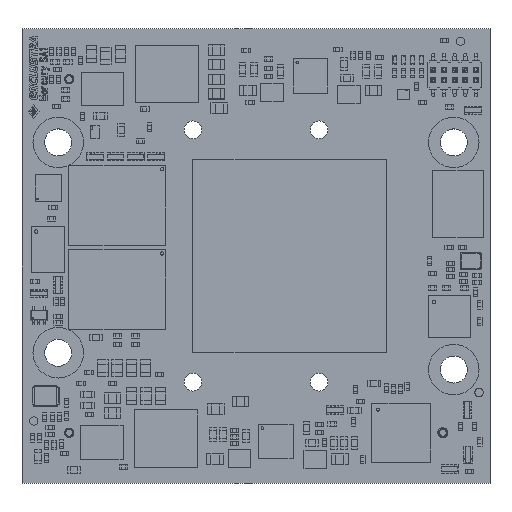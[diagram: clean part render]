
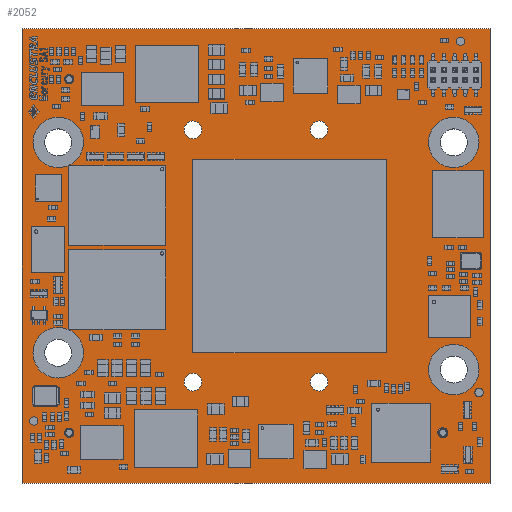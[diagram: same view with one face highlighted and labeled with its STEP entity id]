
A CAD part, top view. The second image highlights one B-rep face of the part: STEP entity #2052.
In plain terms, the highlighted planar face has unit normal (0, 0, 1).
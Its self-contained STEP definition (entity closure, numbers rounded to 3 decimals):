
#1491 = VERTEX_POINT('',#1492);
#1492 = CARTESIAN_POINT('',(0.,0.,0.));
#1498 = EDGE_CURVE('',#1491,#1499,#1501,.T.);
#1499 = VERTEX_POINT('',#1500);
#1500 = CARTESIAN_POINT('',(55.6,0.,0.));
#1501 = LINE('',#1502,#1503);
#1502 = CARTESIAN_POINT('',(0.,0.,0.));
#1503 = VECTOR('',#1504,1.);
#1504 = DIRECTION('',(1.,0.,0.));
#1529 = EDGE_CURVE('',#1499,#1530,#1532,.T.);
#1530 = VERTEX_POINT('',#1531);
#1531 = CARTESIAN_POINT('',(55.6,54.,0.));
#1532 = LINE('',#1533,#1534);
#1533 = CARTESIAN_POINT('',(55.6,0.,0.));
#1534 = VECTOR('',#1535,1.);
#1535 = DIRECTION('',(0.,1.,0.));
#1560 = EDGE_CURVE('',#1530,#1561,#1563,.T.);
#1561 = VERTEX_POINT('',#1562);
#1562 = CARTESIAN_POINT('',(0.,54.,0.));
#1563 = LINE('',#1564,#1565);
#1564 = CARTESIAN_POINT('',(55.6,54.,0.));
#1565 = VECTOR('',#1566,1.);
#1566 = DIRECTION('',(-1.,0.,0.));
#1591 = EDGE_CURVE('',#1561,#1491,#1592,.T.);
#1592 = LINE('',#1593,#1594);
#1593 = CARTESIAN_POINT('',(0.,54.,0.));
#1594 = VECTOR('',#1595,1.);
#1595 = DIRECTION('',(0.,-1.,0.));
#1615 = VERTEX_POINT('',#1616);
#1616 = CARTESIAN_POINT('',(5.9,15.5,0.));
#1622 = EDGE_CURVE('',#1615,#1615,#1623,.T.);
#1623 = CIRCLE('',#1624,1.6);
#1624 = AXIS2_PLACEMENT_3D('',#1625,#1626,#1627);
#1625 = CARTESIAN_POINT('',(4.3,15.5,0.));
#1626 = DIRECTION('',(0.,0.,1.));
#1627 = DIRECTION('',(1.,0.,0.));
#1648 = VERTEX_POINT('',#1649);
#1649 = CARTESIAN_POINT('',(6.15,6.,0.));
#1655 = EDGE_CURVE('',#1648,#1648,#1656,.T.);
#1656 = CIRCLE('',#1657,0.55);
#1657 = AXIS2_PLACEMENT_3D('',#1658,#1659,#1660);
#1658 = CARTESIAN_POINT('',(5.6,6.,0.));
#1659 = DIRECTION('',(0.,0.,1.));
#1660 = DIRECTION('',(1.,0.,0.));
#1681 = VERTEX_POINT('',#1682);
#1682 = CARTESIAN_POINT('',(21.35,12.,0.));
#1688 = EDGE_CURVE('',#1681,#1681,#1689,.T.);
#1689 = CIRCLE('',#1690,1.05);
#1690 = AXIS2_PLACEMENT_3D('',#1691,#1692,#1693);
#1691 = CARTESIAN_POINT('',(20.3,12.,0.));
#1692 = DIRECTION('',(0.,0.,1.));
#1693 = DIRECTION('',(1.,0.,0.));
#1714 = VERTEX_POINT('',#1715);
#1715 = CARTESIAN_POINT('',(5.9,40.5,0.));
#1721 = EDGE_CURVE('',#1714,#1714,#1722,.T.);
#1722 = CIRCLE('',#1723,1.6);
#1723 = AXIS2_PLACEMENT_3D('',#1724,#1725,#1726);
#1724 = CARTESIAN_POINT('',(4.3,40.5,0.));
#1725 = DIRECTION('',(0.,0.,1.));
#1726 = DIRECTION('',(1.,0.,0.));
#1747 = VERTEX_POINT('',#1748);
#1748 = CARTESIAN_POINT('',(21.35,42.,0.));
#1754 = EDGE_CURVE('',#1747,#1747,#1755,.T.);
#1755 = CIRCLE('',#1756,1.05);
#1756 = AXIS2_PLACEMENT_3D('',#1757,#1758,#1759);
#1757 = CARTESIAN_POINT('',(20.3,42.,0.));
#1758 = DIRECTION('',(0.,0.,1.));
#1759 = DIRECTION('',(1.,0.,0.));
#1780 = VERTEX_POINT('',#1781);
#1781 = CARTESIAN_POINT('',(6.15,48.,0.));
#1787 = EDGE_CURVE('',#1780,#1780,#1788,.T.);
#1788 = CIRCLE('',#1789,0.55);
#1789 = AXIS2_PLACEMENT_3D('',#1790,#1791,#1792);
#1790 = CARTESIAN_POINT('',(5.6,48.,0.));
#1791 = DIRECTION('',(0.,0.,1.));
#1792 = DIRECTION('',(1.,0.,0.));
#1813 = VERTEX_POINT('',#1814);
#1814 = CARTESIAN_POINT('',(36.35,12.,0.));
#1820 = EDGE_CURVE('',#1813,#1813,#1821,.T.);
#1821 = CIRCLE('',#1822,1.05);
#1822 = AXIS2_PLACEMENT_3D('',#1823,#1824,#1825);
#1823 = CARTESIAN_POINT('',(35.3,12.,0.));
#1824 = DIRECTION('',(0.,0.,1.));
#1825 = DIRECTION('',(1.,0.,0.));
#1846 = VERTEX_POINT('',#1847);
#1847 = CARTESIAN_POINT('',(50.6,6.,0.));
#1853 = EDGE_CURVE('',#1846,#1846,#1854,.T.);
#1854 = CIRCLE('',#1855,0.6);
#1855 = AXIS2_PLACEMENT_3D('',#1856,#1857,#1858);
#1856 = CARTESIAN_POINT('',(50.,6.,0.));
#1857 = DIRECTION('',(0.,0.,1.));
#1858 = DIRECTION('',(1.,0.,0.));
#1879 = VERTEX_POINT('',#1880);
#1880 = CARTESIAN_POINT('',(52.9,13.5,0.));
#1886 = EDGE_CURVE('',#1879,#1879,#1887,.T.);
#1887 = CIRCLE('',#1888,1.6);
#1888 = AXIS2_PLACEMENT_3D('',#1889,#1890,#1891);
#1889 = CARTESIAN_POINT('',(51.3,13.5,0.));
#1890 = DIRECTION('',(0.,0.,1.));
#1891 = DIRECTION('',(1.,0.,0.));
#1912 = VERTEX_POINT('',#1913);
#1913 = CARTESIAN_POINT('',(36.35,42.,0.));
#1919 = EDGE_CURVE('',#1912,#1912,#1920,.T.);
#1920 = CIRCLE('',#1921,1.05);
#1921 = AXIS2_PLACEMENT_3D('',#1922,#1923,#1924);
#1922 = CARTESIAN_POINT('',(35.3,42.,0.));
#1923 = DIRECTION('',(0.,0.,1.));
#1924 = DIRECTION('',(1.,0.,0.));
#1945 = VERTEX_POINT('',#1946);
#1946 = CARTESIAN_POINT('',(52.9,40.5,0.));
#1952 = EDGE_CURVE('',#1945,#1945,#1953,.T.);
#1953 = CIRCLE('',#1954,1.6);
#1954 = AXIS2_PLACEMENT_3D('',#1955,#1956,#1957);
#1955 = CARTESIAN_POINT('',(51.3,40.5,0.));
#1956 = DIRECTION('',(0.,0.,1.));
#1957 = DIRECTION('',(1.,0.,0.));
#1978 = VERTEX_POINT('',#1979);
#1979 = CARTESIAN_POINT('',(50.6,48.,0.));
#1985 = EDGE_CURVE('',#1978,#1978,#1986,.T.);
#1986 = CIRCLE('',#1987,0.6);
#1987 = AXIS2_PLACEMENT_3D('',#1988,#1989,#1990);
#1988 = CARTESIAN_POINT('',(50.,48.,0.));
#1989 = DIRECTION('',(0.,0.,1.));
#1990 = DIRECTION('',(1.,0.,0.));
#2052 = ADVANCED_FACE('',(#2053,#2059,#2062,#2065,#2068,#2071,#2074,
    #2077,#2080,#2083,#2086,#2089,#2092),#2095,.F.);
#2053 = FACE_BOUND('',#2054,.T.);
#2054 = EDGE_LOOP('',(#2055,#2056,#2057,#2058));
#2055 = ORIENTED_EDGE('',*,*,#1498,.T.);
#2056 = ORIENTED_EDGE('',*,*,#1529,.T.);
#2057 = ORIENTED_EDGE('',*,*,#1560,.T.);
#2058 = ORIENTED_EDGE('',*,*,#1591,.T.);
#2059 = FACE_BOUND('',#2060,.F.);
#2060 = EDGE_LOOP('',(#2061));
#2061 = ORIENTED_EDGE('',*,*,#1622,.T.);
#2062 = FACE_BOUND('',#2063,.F.);
#2063 = EDGE_LOOP('',(#2064));
#2064 = ORIENTED_EDGE('',*,*,#1655,.T.);
#2065 = FACE_BOUND('',#2066,.F.);
#2066 = EDGE_LOOP('',(#2067));
#2067 = ORIENTED_EDGE('',*,*,#1688,.T.);
#2068 = FACE_BOUND('',#2069,.F.);
#2069 = EDGE_LOOP('',(#2070));
#2070 = ORIENTED_EDGE('',*,*,#1721,.T.);
#2071 = FACE_BOUND('',#2072,.F.);
#2072 = EDGE_LOOP('',(#2073));
#2073 = ORIENTED_EDGE('',*,*,#1754,.T.);
#2074 = FACE_BOUND('',#2075,.F.);
#2075 = EDGE_LOOP('',(#2076));
#2076 = ORIENTED_EDGE('',*,*,#1787,.T.);
#2077 = FACE_BOUND('',#2078,.F.);
#2078 = EDGE_LOOP('',(#2079));
#2079 = ORIENTED_EDGE('',*,*,#1820,.T.);
#2080 = FACE_BOUND('',#2081,.F.);
#2081 = EDGE_LOOP('',(#2082));
#2082 = ORIENTED_EDGE('',*,*,#1853,.T.);
#2083 = FACE_BOUND('',#2084,.F.);
#2084 = EDGE_LOOP('',(#2085));
#2085 = ORIENTED_EDGE('',*,*,#1886,.T.);
#2086 = FACE_BOUND('',#2087,.F.);
#2087 = EDGE_LOOP('',(#2088));
#2088 = ORIENTED_EDGE('',*,*,#1919,.T.);
#2089 = FACE_BOUND('',#2090,.F.);
#2090 = EDGE_LOOP('',(#2091));
#2091 = ORIENTED_EDGE('',*,*,#1952,.T.);
#2092 = FACE_BOUND('',#2093,.F.);
#2093 = EDGE_LOOP('',(#2094));
#2094 = ORIENTED_EDGE('',*,*,#1985,.T.);
#2095 = PLANE('',#2096);
#2096 = AXIS2_PLACEMENT_3D('',#2097,#2098,#2099);
#2097 = CARTESIAN_POINT('',(0.,0.,0.));
#2098 = DIRECTION('',(0.,0.,-1.));
#2099 = DIRECTION('',(-1.,0.,0.));
